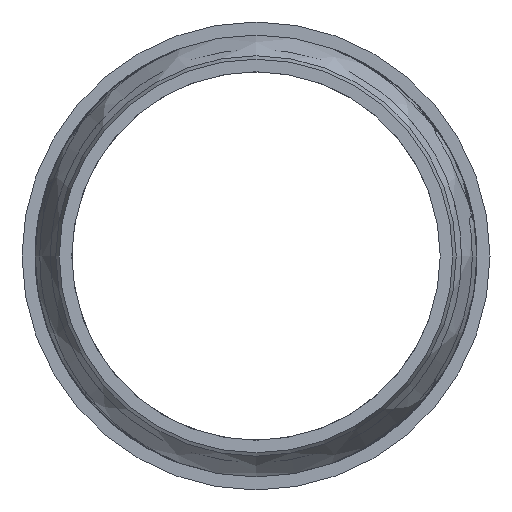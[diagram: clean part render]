
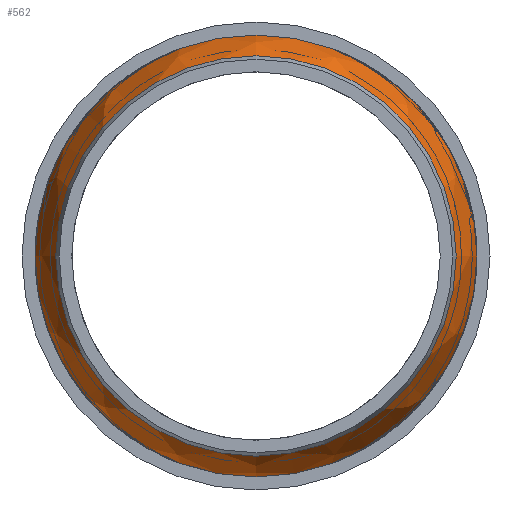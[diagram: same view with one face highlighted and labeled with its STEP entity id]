
A CAD part, left-side view. The second image highlights one B-rep face of the part: STEP entity #562.
In plain terms, the highlighted free-form (B-spline) face has degree [2, 2] with [3, 9] control points.
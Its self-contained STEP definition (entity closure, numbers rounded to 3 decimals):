
#11=(
BOUNDED_CURVE()
B_SPLINE_CURVE(2,(#2313,#2314,#2315),.UNSPECIFIED.,.F.,.F.)
B_SPLINE_CURVE_WITH_KNOTS((3,3),(0.133,0.634),
 .UNSPECIFIED.)
CURVE()
GEOMETRIC_REPRESENTATION_ITEM()
RATIONAL_B_SPLINE_CURVE((1.,0.969,1.))
REPRESENTATION_ITEM('')
);
#12=(
BOUNDED_SURFACE()
B_SPLINE_SURFACE(2,2,((#2286,#2287,#2288,#2289,#2290,#2291,#2292,#2293,
#2294),(#2295,#2296,#2297,#2298,#2299,#2300,#2301,#2302,#2303),(#2304,#2305,
#2306,#2307,#2308,#2309,#2310,#2311,#2312)),.UNSPECIFIED.,.F.,.T.,.F.)
B_SPLINE_SURFACE_WITH_KNOTS((3,3),(3,2,2,2,3),(-0.634,-0.133),
(-3.142,-1.571,0.,1.571,3.142),
 .UNSPECIFIED.)
GEOMETRIC_REPRESENTATION_ITEM()
RATIONAL_B_SPLINE_SURFACE(((1.,0.707,1.,0.707,1.,
0.707,1.,0.707,1.),(0.969,0.685,
0.969,0.685,0.969,0.685,
0.969,0.685,0.969),(1.,0.707,
1.,0.707,1.,0.707,1.,0.707,1.)))
REPRESENTATION_ITEM('')
SURFACE()
);
#147=FACE_OUTER_BOUND('',#207,.T.);
#207=EDGE_LOOP('',(#468,#469,#470,#471,#472,#473,#474));
#233=CIRCLE('',#603,69.1);
#234=CIRCLE('',#604,69.1);
#235=CIRCLE('',#605,69.1);
#241=CIRCLE('',#624,62.6);
#242=CIRCLE('',#625,62.6);
#275=VERTEX_POINT('',#1401);
#284=VERTEX_POINT('',#1947);
#285=VERTEX_POINT('',#1948);
#296=VERTEX_POINT('',#2282);
#297=VERTEX_POINT('',#2283);
#343=EDGE_CURVE('',#284,#285,#233,.T.);
#344=EDGE_CURVE('',#285,#275,#234,.T.);
#345=EDGE_CURVE('',#275,#284,#235,.T.);
#357=EDGE_CURVE('',#296,#297,#241,.T.);
#358=EDGE_CURVE('',#297,#296,#242,.T.);
#359=EDGE_CURVE('',#285,#297,#11,.T.);
#468=ORIENTED_EDGE('',*,*,#343,.F.);
#469=ORIENTED_EDGE('',*,*,#345,.F.);
#470=ORIENTED_EDGE('',*,*,#344,.F.);
#471=ORIENTED_EDGE('',*,*,#359,.T.);
#472=ORIENTED_EDGE('',*,*,#358,.T.);
#473=ORIENTED_EDGE('',*,*,#357,.T.);
#474=ORIENTED_EDGE('',*,*,#359,.F.);
#562=ADVANCED_FACE('',(#147),#12,.F.);
#603=AXIS2_PLACEMENT_3D('',#1949,#697,#698);
#604=AXIS2_PLACEMENT_3D('',#1950,#699,#700);
#605=AXIS2_PLACEMENT_3D('',#1951,#701,#702);
#624=AXIS2_PLACEMENT_3D('',#2284,#739,#740);
#625=AXIS2_PLACEMENT_3D('',#2285,#741,#742);
#697=DIRECTION('center_axis',(1.,0.,0.));
#698=DIRECTION('ref_axis',(0.,0.,
1.));
#699=DIRECTION('center_axis',(1.,0.,0.));
#700=DIRECTION('ref_axis',(0.,0.,
1.));
#701=DIRECTION('center_axis',(1.,0.,0.));
#702=DIRECTION('ref_axis',(0.,0.,
1.));
#739=DIRECTION('center_axis',(1.,0.,0.));
#740=DIRECTION('ref_axis',(0.,0.,
1.));
#741=DIRECTION('center_axis',(1.,0.,0.));
#742=DIRECTION('ref_axis',(0.,0.,
1.));
#1401=CARTESIAN_POINT('',(1513.1,69.1,0.));
#1947=CARTESIAN_POINT('',(1513.1,-69.1,0.));
#1948=CARTESIAN_POINT('',(1513.1,0.,-69.1));
#1949=CARTESIAN_POINT('Origin',(1513.1,0.,
0.));
#1950=CARTESIAN_POINT('Origin',(1513.1,0.,
0.));
#1951=CARTESIAN_POINT('Origin',(1513.1,0.,
0.));
#2282=CARTESIAN_POINT('',(1497.,-62.6,0.));
#2283=CARTESIAN_POINT('',(1497.,0.,-62.6));
#2284=CARTESIAN_POINT('Origin',(1497.,0.,
0.));
#2285=CARTESIAN_POINT('Origin',(1497.,0.,
0.));
#2286=CARTESIAN_POINT('Ctrl Pts',(1497.,0.,
-62.6));
#2287=CARTESIAN_POINT('Ctrl Pts',(1497.,62.6,-62.6));
#2288=CARTESIAN_POINT('Ctrl Pts',(1497.,62.6,0.));
#2289=CARTESIAN_POINT('Ctrl Pts',(1497.,62.6,62.6));
#2290=CARTESIAN_POINT('Ctrl Pts',(1497.,0.,
62.6));
#2291=CARTESIAN_POINT('Ctrl Pts',(1497.,-62.6,62.6));
#2292=CARTESIAN_POINT('Ctrl Pts',(1497.,-62.6,0.));
#2293=CARTESIAN_POINT('Ctrl Pts',(1497.,-62.6,-62.6));
#2294=CARTESIAN_POINT('Ctrl Pts',(1497.,0.,
-62.6));
#2295=CARTESIAN_POINT('Ctrl Pts',(1504.218,0.,
-67.911));
#2296=CARTESIAN_POINT('Ctrl Pts',(1504.218,67.911,-67.911));
#2297=CARTESIAN_POINT('Ctrl Pts',(1504.218,67.911,0.));
#2298=CARTESIAN_POINT('Ctrl Pts',(1504.218,67.911,67.911));
#2299=CARTESIAN_POINT('Ctrl Pts',(1504.218,0.,
67.911));
#2300=CARTESIAN_POINT('Ctrl Pts',(1504.218,-67.911,67.911));
#2301=CARTESIAN_POINT('Ctrl Pts',(1504.218,-67.911,0.));
#2302=CARTESIAN_POINT('Ctrl Pts',(1504.218,-67.911,-67.911));
#2303=CARTESIAN_POINT('Ctrl Pts',(1504.218,0.,
-67.911));
#2304=CARTESIAN_POINT('Ctrl Pts',(1513.1,0.,
-69.1));
#2305=CARTESIAN_POINT('Ctrl Pts',(1513.1,69.1,-69.1));
#2306=CARTESIAN_POINT('Ctrl Pts',(1513.1,69.1,0.));
#2307=CARTESIAN_POINT('Ctrl Pts',(1513.1,69.1,69.1));
#2308=CARTESIAN_POINT('Ctrl Pts',(1513.1,0.,
69.1));
#2309=CARTESIAN_POINT('Ctrl Pts',(1513.1,-69.1,69.1));
#2310=CARTESIAN_POINT('Ctrl Pts',(1513.1,-69.1,0.));
#2311=CARTESIAN_POINT('Ctrl Pts',(1513.1,-69.1,-69.1));
#2312=CARTESIAN_POINT('Ctrl Pts',(1513.1,0.,
-69.1));
#2313=CARTESIAN_POINT('Ctrl Pts',(1513.1,0.,
-69.1));
#2314=CARTESIAN_POINT('Ctrl Pts',(1504.218,0.,
-67.911));
#2315=CARTESIAN_POINT('Ctrl Pts',(1497.,0.,
-62.6));
